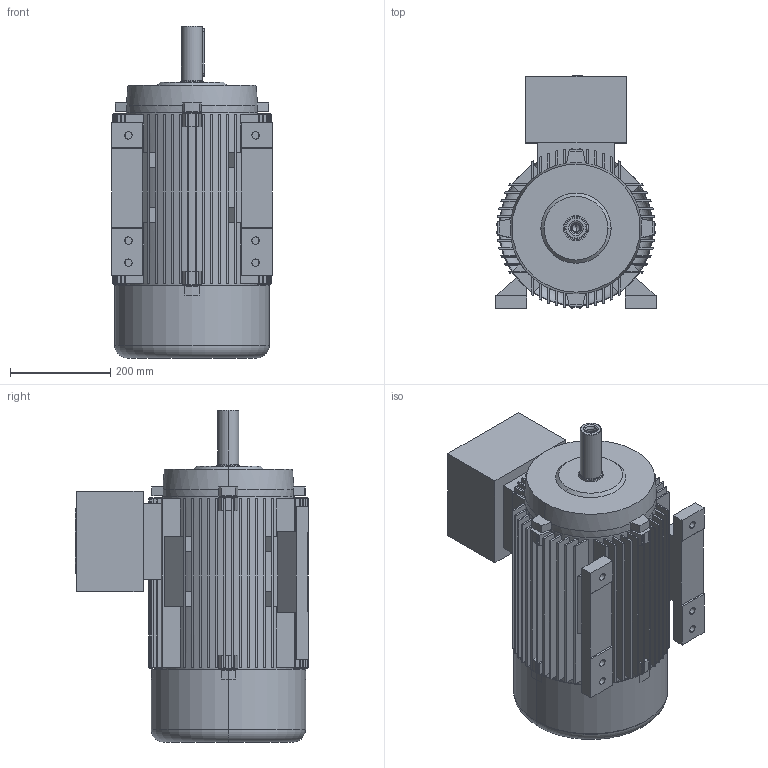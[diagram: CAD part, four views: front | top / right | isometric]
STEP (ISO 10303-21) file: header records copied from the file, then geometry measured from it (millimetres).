
FILE_DESCRIPTION (( 'STEP AP203' ), '1' );
FILE_NAME ('20.18422_A 7AT 160M&L B3 STANDK.STEP', '2018-04-24T10:32:20', ( '' ), ( '' ), 'SwSTEP 2.0', 'SolidWorks 2017', '' );
FILE_SCHEMA (( 'CONFIG_CONTROL_DESIGN' ));
Length unit declared in the file: millimetre
Products named in the file (1): 20.18422_A 7AT 160M&L B3 STANDK
Bounding box: 320 x 465 x 662 mm (x, y, z)
Volume: 16379411.7 mm3; surface area: 2700338.6 mm2
Topology: 8 solids, 8 shells, 730 faces, 1980 edges, 1305 vertices
Faces by surface type: plane 524, cylinder 163, cone 30, bspline 9, torus 4
Entity records: 23266 total; most frequent: CARTESIAN_POINT 4335, DIRECTION 3970, ORIENTED_EDGE 3940, EDGE_CURVE 1970, LINE 1338, VECTOR 1338, AXIS2_PLACEMENT_3D 1316, VERTEX_POINT 1305
